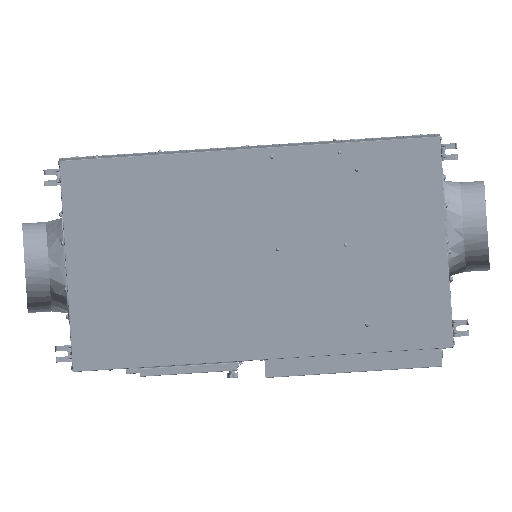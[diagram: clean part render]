
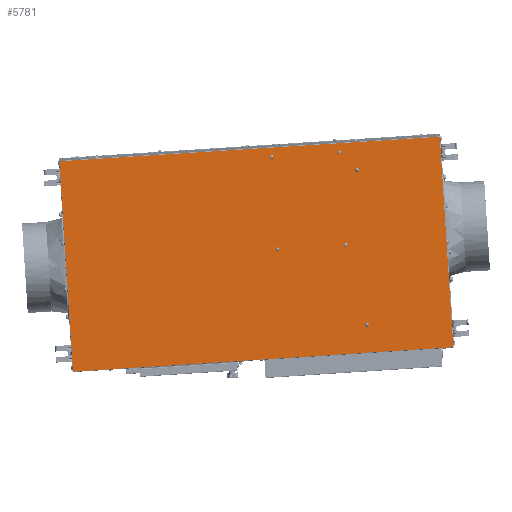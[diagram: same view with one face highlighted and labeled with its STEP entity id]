
A CAD part, front view. The second image highlights one B-rep face of the part: STEP entity #5781.
In plain terms, the highlighted planar face has unit normal (0.001, -1, -0.015) as drawn and (1, 0, 0) by its records, which use the part's own axes.
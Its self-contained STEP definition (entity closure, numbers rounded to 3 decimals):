
#249=CARTESIAN_POINT('',(0.8,-829.,459.));
#269=DIRECTION('',(0.,0.,-1.));
#270=VECTOR('',#269,458.);
#271=CARTESIAN_POINT('',(0.8,-829.,459.));
#272=LINE('',#271,#270);
#273=CARTESIAN_POINT('',(0.8,-651.95,359.8));
#274=DIRECTION('',(1.,0.,0.));
#275=DIRECTION('',(0.,-1.,0.));
#276=AXIS2_PLACEMENT_3D('',#273,#274,#275);
#278=CARTESIAN_POINT('',(0.8,-651.95,359.8));
#279=DIRECTION('',(1.,0.,0.));
#280=DIRECTION('',(0.,1.,0.));
#281=AXIS2_PLACEMENT_3D('',#278,#279,#280);
#283=CARTESIAN_POINT('',(0.8,-564.45,379.8));
#284=DIRECTION('',(1.,0.,0.));
#285=DIRECTION('',(0.,-1.,0.));
#286=AXIS2_PLACEMENT_3D('',#283,#284,#285);
#288=CARTESIAN_POINT('',(0.8,-564.45,379.8));
#289=DIRECTION('',(1.,0.,0.));
#290=DIRECTION('',(0.,1.,0.));
#291=AXIS2_PLACEMENT_3D('',#288,#289,#290);
#293=CARTESIAN_POINT('',(0.8,-564.45,69.8));
#294=DIRECTION('',(1.,0.,0.));
#295=DIRECTION('',(0.,-1.,0.));
#296=AXIS2_PLACEMENT_3D('',#293,#294,#295);
#298=CARTESIAN_POINT('',(0.8,-564.45,69.8));
#299=DIRECTION('',(1.,0.,0.));
#300=DIRECTION('',(0.,1.,0.));
#301=AXIS2_PLACEMENT_3D('',#298,#299,#300);
#303=CARTESIAN_POINT('',(0.8,-651.95,89.8));
#304=DIRECTION('',(1.,0.,0.));
#305=DIRECTION('',(0.,-1.,0.));
#306=AXIS2_PLACEMENT_3D('',#303,#304,#305);
#308=CARTESIAN_POINT('',(0.8,-651.95,89.8));
#309=DIRECTION('',(1.,0.,0.));
#310=DIRECTION('',(0.,1.,0.));
#311=AXIS2_PLACEMENT_3D('',#308,#309,#310);
#313=CARTESIAN_POINT('',(0.8,-330.,30.));
#314=DIRECTION('',(1.,0.,0.));
#315=DIRECTION('',(0.,-1.,0.));
#316=AXIS2_PLACEMENT_3D('',#313,#314,#315);
#318=CARTESIAN_POINT('',(0.8,-330.,30.));
#319=DIRECTION('',(1.,0.,0.));
#320=DIRECTION('',(0.,1.,0.));
#321=AXIS2_PLACEMENT_3D('',#318,#319,#320);
#323=CARTESIAN_POINT('',(0.8,-380.,30.));
#324=DIRECTION('',(1.,0.,0.));
#325=DIRECTION('',(0.,-1.,0.));
#326=AXIS2_PLACEMENT_3D('',#323,#324,#325);
#328=CARTESIAN_POINT('',(0.8,-380.,30.));
#329=DIRECTION('',(1.,0.,0.));
#330=DIRECTION('',(0.,1.,0.));
#331=AXIS2_PLACEMENT_3D('',#328,#329,#330);
#333=CARTESIAN_POINT('',(0.8,-184.9,398.3));
#334=DIRECTION('',(1.,0.,0.));
#335=DIRECTION('',(0.,1.,0.));
#336=AXIS2_PLACEMENT_3D('',#333,#334,#335);
#338=CARTESIAN_POINT('',(0.8,-184.9,398.3));
#339=DIRECTION('',(1.,0.,0.));
#340=DIRECTION('',(0.,-1.,0.));
#341=AXIS2_PLACEMENT_3D('',#338,#339,#340);
#343=CARTESIAN_POINT('',(0.8,-184.9,61.3));
#344=DIRECTION('',(1.,0.,0.));
#345=DIRECTION('',(0.,1.,0.));
#346=AXIS2_PLACEMENT_3D('',#343,#344,#345);
#348=CARTESIAN_POINT('',(0.8,-184.9,61.3));
#349=DIRECTION('',(1.,0.,0.));
#350=DIRECTION('',(0.,-1.,0.));
#351=AXIS2_PLACEMENT_3D('',#348,#349,#350);
#353=CARTESIAN_POINT('',(0.8,-368.4,438.8));
#354=DIRECTION('',(1.,0.,0.));
#355=DIRECTION('',(0.,1.,0.));
#356=AXIS2_PLACEMENT_3D('',#353,#354,#355);
#358=CARTESIAN_POINT('',(0.8,-368.4,438.8));
#359=DIRECTION('',(1.,0.,0.));
#360=DIRECTION('',(0.,-1.,0.));
#361=AXIS2_PLACEMENT_3D('',#358,#359,#360);
#363=CARTESIAN_POINT('',(0.8,-220.4,438.8));
#364=DIRECTION('',(1.,0.,0.));
#365=DIRECTION('',(0.,1.,0.));
#366=AXIS2_PLACEMENT_3D('',#363,#364,#365);
#368=CARTESIAN_POINT('',(0.8,-220.4,438.8));
#369=DIRECTION('',(1.,0.,0.));
#370=DIRECTION('',(0.,-1.,0.));
#371=AXIS2_PLACEMENT_3D('',#368,#369,#370);
#373=CARTESIAN_POINT('',(0.8,-368.4,237.8));
#374=DIRECTION('',(1.,0.,0.));
#375=DIRECTION('',(0.,1.,0.));
#376=AXIS2_PLACEMENT_3D('',#373,#374,#375);
#378=CARTESIAN_POINT('',(0.8,-368.4,237.8));
#379=DIRECTION('',(1.,0.,0.));
#380=DIRECTION('',(0.,-1.,0.));
#381=AXIS2_PLACEMENT_3D('',#378,#379,#380);
#383=CARTESIAN_POINT('',(0.8,-220.4,237.8));
#384=DIRECTION('',(1.,0.,0.));
#385=DIRECTION('',(0.,1.,0.));
#386=AXIS2_PLACEMENT_3D('',#383,#384,#385);
#388=CARTESIAN_POINT('',(0.8,-220.4,237.8));
#389=DIRECTION('',(1.,0.,0.));
#390=DIRECTION('',(0.,-1.,0.));
#391=AXIS2_PLACEMENT_3D('',#388,#389,#390);
#397=DIRECTION('',(0.,-1.,0.));
#398=VECTOR('',#397,828.);
#399=CARTESIAN_POINT('',(0.8,-1.,459.));
#400=LINE('',#399,#398);
#1541=DIRECTION('',(0.,0.,1.));
#1542=VECTOR('',#1541,458.);
#1543=CARTESIAN_POINT('',(0.8,-1.,1.));
#1544=LINE('',#1543,#1542);
#1691=CARTESIAN_POINT('',(0.8,-1.,1.));
#1733=DIRECTION('',(0.,1.,0.));
#1734=VECTOR('',#1733,828.);
#1735=CARTESIAN_POINT('',(0.8,-829.,1.));
#1736=LINE('',#1735,#1734);
#4364=VERTEX_POINT('',#249);
#4365=CARTESIAN_POINT('',(0.8,-829.,1.));
#4366=VERTEX_POINT('',#4365);
#4373=CARTESIAN_POINT('',(0.8,-1.,459.));
#4374=VERTEX_POINT('',#4373);
#4676=VERTEX_POINT('',#1691);
#5394=CARTESIAN_POINT('',(0.8,-652.,359.8));
#5395=CARTESIAN_POINT('',(0.8,-651.9,359.8));
#5396=VERTEX_POINT('',#5394);
#5397=VERTEX_POINT('',#5395);
#5398=CARTESIAN_POINT('',(0.8,-564.5,379.8));
#5399=CARTESIAN_POINT('',(0.8,-564.4,379.8));
#5400=VERTEX_POINT('',#5398);
#5401=VERTEX_POINT('',#5399);
#5402=CARTESIAN_POINT('',(0.8,-564.5,69.8));
#5403=CARTESIAN_POINT('',(0.8,-564.4,69.8));
#5404=VERTEX_POINT('',#5402);
#5405=VERTEX_POINT('',#5403);
#5406=CARTESIAN_POINT('',(0.8,-652.,89.8));
#5407=CARTESIAN_POINT('',(0.8,-651.9,89.8));
#5408=VERTEX_POINT('',#5406);
#5409=VERTEX_POINT('',#5407);
#5410=CARTESIAN_POINT('',(0.8,-330.075,30.));
#5411=CARTESIAN_POINT('',(0.8,-329.925,30.));
#5412=VERTEX_POINT('',#5410);
#5413=VERTEX_POINT('',#5411);
#5414=CARTESIAN_POINT('',(0.8,-380.075,30.));
#5415=CARTESIAN_POINT('',(0.8,-379.925,30.));
#5416=VERTEX_POINT('',#5414);
#5417=VERTEX_POINT('',#5415);
#5418=CARTESIAN_POINT('',(0.8,-182.65,398.3));
#5419=CARTESIAN_POINT('',(0.8,-187.15,398.3));
#5420=VERTEX_POINT('',#5418);
#5421=VERTEX_POINT('',#5419);
#5422=CARTESIAN_POINT('',(0.8,-182.65,61.3));
#5423=CARTESIAN_POINT('',(0.8,-187.15,61.3));
#5424=VERTEX_POINT('',#5422);
#5425=VERTEX_POINT('',#5423);
#5426=CARTESIAN_POINT('',(0.8,-366.15,438.8));
#5427=CARTESIAN_POINT('',(0.8,-370.65,438.8));
#5428=VERTEX_POINT('',#5426);
#5429=VERTEX_POINT('',#5427);
#5430=CARTESIAN_POINT('',(0.8,-218.15,438.8));
#5431=CARTESIAN_POINT('',(0.8,-222.65,438.8));
#5432=VERTEX_POINT('',#5430);
#5433=VERTEX_POINT('',#5431);
#5434=CARTESIAN_POINT('',(0.8,-366.15,237.8));
#5435=CARTESIAN_POINT('',(0.8,-370.65,237.8));
#5436=VERTEX_POINT('',#5434);
#5437=VERTEX_POINT('',#5435);
#5438=CARTESIAN_POINT('',(0.8,-218.15,237.8));
#5439=CARTESIAN_POINT('',(0.8,-222.65,237.8));
#5440=VERTEX_POINT('',#5438);
#5441=VERTEX_POINT('',#5439);
#5695=CARTESIAN_POINT('',(0.8,0.,0.));
#5696=DIRECTION('',(1.,0.,0.));
#5697=DIRECTION('',(0.,-1.,0.));
#5698=AXIS2_PLACEMENT_3D('',#5695,#5696,#5697);
#5699=PLANE('',#5698);
#5700=ORIENTED_EDGE('',*,*,#5688,.F.);
#5702=ORIENTED_EDGE('',*,*,#5701,.F.);
#5704=ORIENTED_EDGE('',*,*,#5703,.F.);
#5706=ORIENTED_EDGE('',*,*,#5705,.F.);
#5707=EDGE_LOOP('',(#5700,#5702,#5704,#5706));
#5708=FACE_OUTER_BOUND('',#5707,.F.);
#5710=ORIENTED_EDGE('',*,*,#5709,.T.);
#5712=ORIENTED_EDGE('',*,*,#5711,.T.);
#5713=EDGE_LOOP('',(#5710,#5712));
#5714=FACE_BOUND('',#5713,.F.);
#5716=ORIENTED_EDGE('',*,*,#5715,.T.);
#5718=ORIENTED_EDGE('',*,*,#5717,.T.);
#5719=EDGE_LOOP('',(#5716,#5718));
#5720=FACE_BOUND('',#5719,.F.);
#5722=ORIENTED_EDGE('',*,*,#5721,.T.);
#5724=ORIENTED_EDGE('',*,*,#5723,.T.);
#5725=EDGE_LOOP('',(#5722,#5724));
#5726=FACE_BOUND('',#5725,.F.);
#5728=ORIENTED_EDGE('',*,*,#5727,.T.);
#5730=ORIENTED_EDGE('',*,*,#5729,.T.);
#5731=EDGE_LOOP('',(#5728,#5730));
#5732=FACE_BOUND('',#5731,.F.);
#5734=ORIENTED_EDGE('',*,*,#5733,.T.);
#5736=ORIENTED_EDGE('',*,*,#5735,.T.);
#5737=EDGE_LOOP('',(#5734,#5736));
#5738=FACE_BOUND('',#5737,.F.);
#5740=ORIENTED_EDGE('',*,*,#5739,.T.);
#5742=ORIENTED_EDGE('',*,*,#5741,.T.);
#5743=EDGE_LOOP('',(#5740,#5742));
#5744=FACE_BOUND('',#5743,.F.);
#5746=ORIENTED_EDGE('',*,*,#5745,.T.);
#5748=ORIENTED_EDGE('',*,*,#5747,.T.);
#5749=EDGE_LOOP('',(#5746,#5748));
#5750=FACE_BOUND('',#5749,.F.);
#5752=ORIENTED_EDGE('',*,*,#5751,.T.);
#5754=ORIENTED_EDGE('',*,*,#5753,.T.);
#5755=EDGE_LOOP('',(#5752,#5754));
#5756=FACE_BOUND('',#5755,.F.);
#5758=ORIENTED_EDGE('',*,*,#5757,.T.);
#5760=ORIENTED_EDGE('',*,*,#5759,.T.);
#5761=EDGE_LOOP('',(#5758,#5760));
#5762=FACE_BOUND('',#5761,.F.);
#5764=ORIENTED_EDGE('',*,*,#5763,.T.);
#5766=ORIENTED_EDGE('',*,*,#5765,.T.);
#5767=EDGE_LOOP('',(#5764,#5766));
#5768=FACE_BOUND('',#5767,.F.);
#5770=ORIENTED_EDGE('',*,*,#5769,.T.);
#5772=ORIENTED_EDGE('',*,*,#5771,.T.);
#5773=EDGE_LOOP('',(#5770,#5772));
#5774=FACE_BOUND('',#5773,.F.);
#5776=ORIENTED_EDGE('',*,*,#5775,.T.);
#5778=ORIENTED_EDGE('',*,*,#5777,.T.);
#5779=EDGE_LOOP('',(#5776,#5778));
#5780=FACE_BOUND('',#5779,.F.);
#5781=ADVANCED_FACE('',(#5708,#5714,#5720,#5726,#5732,#5738,#5744,#5750,#5756,
#5762,#5768,#5774,#5780),#5699,.T.);
#277=CIRCLE('',#276,0.05);
#282=CIRCLE('',#281,0.05);
#287=CIRCLE('',#286,0.05);
#292=CIRCLE('',#291,0.05);
#297=CIRCLE('',#296,0.05);
#302=CIRCLE('',#301,0.05);
#307=CIRCLE('',#306,0.05);
#312=CIRCLE('',#311,0.05);
#317=CIRCLE('',#316,0.075);
#322=CIRCLE('',#321,0.075);
#327=CIRCLE('',#326,0.075);
#332=CIRCLE('',#331,0.075);
#337=CIRCLE('',#336,2.25);
#342=CIRCLE('',#341,2.25);
#347=CIRCLE('',#346,2.25);
#352=CIRCLE('',#351,2.25);
#357=CIRCLE('',#356,2.25);
#362=CIRCLE('',#361,2.25);
#367=CIRCLE('',#366,2.25);
#372=CIRCLE('',#371,2.25);
#377=CIRCLE('',#376,2.25);
#382=CIRCLE('',#381,2.25);
#387=CIRCLE('',#386,2.25);
#392=CIRCLE('',#391,2.25);
#5688=EDGE_CURVE('',#4364,#4366,#272,.T.);
#5701=EDGE_CURVE('',#4374,#4364,#400,.T.);
#5703=EDGE_CURVE('',#4676,#4374,#1544,.T.);
#5705=EDGE_CURVE('',#4366,#4676,#1736,.T.);
#5709=EDGE_CURVE('',#5396,#5397,#277,.T.);
#5711=EDGE_CURVE('',#5397,#5396,#282,.T.);
#5715=EDGE_CURVE('',#5400,#5401,#287,.T.);
#5717=EDGE_CURVE('',#5401,#5400,#292,.T.);
#5721=EDGE_CURVE('',#5404,#5405,#297,.T.);
#5723=EDGE_CURVE('',#5405,#5404,#302,.T.);
#5727=EDGE_CURVE('',#5408,#5409,#307,.T.);
#5729=EDGE_CURVE('',#5409,#5408,#312,.T.);
#5733=EDGE_CURVE('',#5412,#5413,#317,.T.);
#5735=EDGE_CURVE('',#5413,#5412,#322,.T.);
#5739=EDGE_CURVE('',#5416,#5417,#327,.T.);
#5741=EDGE_CURVE('',#5417,#5416,#332,.T.);
#5745=EDGE_CURVE('',#5420,#5421,#337,.T.);
#5747=EDGE_CURVE('',#5421,#5420,#342,.T.);
#5751=EDGE_CURVE('',#5424,#5425,#347,.T.);
#5753=EDGE_CURVE('',#5425,#5424,#352,.T.);
#5757=EDGE_CURVE('',#5428,#5429,#357,.T.);
#5759=EDGE_CURVE('',#5429,#5428,#362,.T.);
#5763=EDGE_CURVE('',#5432,#5433,#367,.T.);
#5765=EDGE_CURVE('',#5433,#5432,#372,.T.);
#5769=EDGE_CURVE('',#5436,#5437,#377,.T.);
#5771=EDGE_CURVE('',#5437,#5436,#382,.T.);
#5775=EDGE_CURVE('',#5440,#5441,#387,.T.);
#5777=EDGE_CURVE('',#5441,#5440,#392,.T.);
